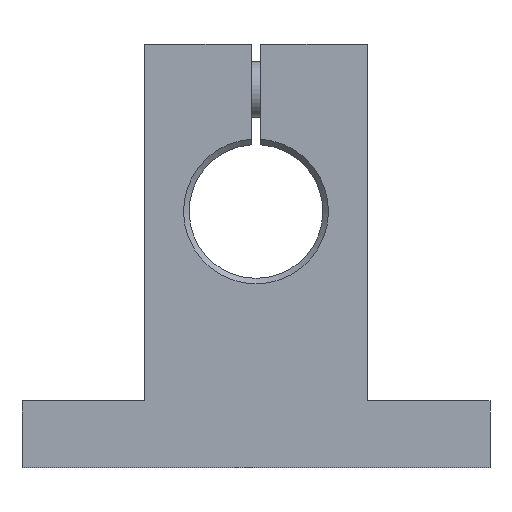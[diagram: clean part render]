
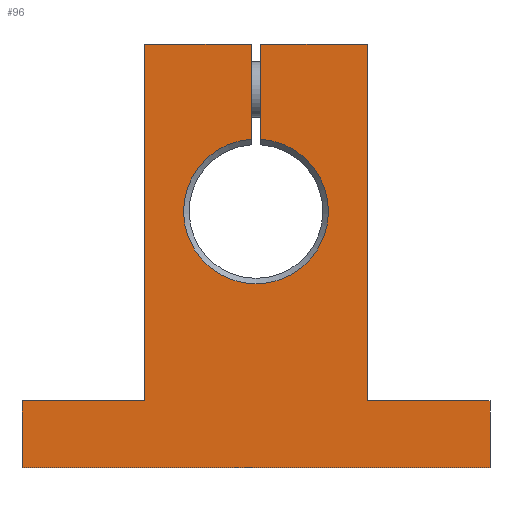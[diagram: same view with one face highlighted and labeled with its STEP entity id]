
A CAD part, front view. The second image highlights one B-rep face of the part: STEP entity #96.
In plain terms, the highlighted planar face has unit normal (0, -1, 0).
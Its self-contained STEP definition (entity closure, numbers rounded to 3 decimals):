
#96 = ADVANCED_FACE( '', ( #213 ), #214, .T. );
#213 = FACE_OUTER_BOUND( '', #357, .T. );
#214 = PLANE( '', #358 );
#357 = EDGE_LOOP( '', ( #567, #568, #569, #570, #571, #572, #573, #574, #575, #576, #577, #578 ) );
#358 = AXIS2_PLACEMENT_3D( '', #579, #580, #581 );
#567 = ORIENTED_EDGE( '', *, *, #769, .F. );
#568 = ORIENTED_EDGE( '', *, *, #787, .T. );
#569 = ORIENTED_EDGE( '', *, *, #815, .F. );
#570 = ORIENTED_EDGE( '', *, *, #807, .F. );
#571 = ORIENTED_EDGE( '', *, *, #816, .F. );
#572 = ORIENTED_EDGE( '', *, *, #817, .F. );
#573 = ORIENTED_EDGE( '', *, *, #803, .F. );
#574 = ORIENTED_EDGE( '', *, *, #757, .F. );
#575 = ORIENTED_EDGE( '', *, *, #790, .F. );
#576 = ORIENTED_EDGE( '', *, *, #818, .F. );
#577 = ORIENTED_EDGE( '', *, *, #819, .F. );
#578 = ORIENTED_EDGE( '', *, *, #820, .F. );
#579 = CARTESIAN_POINT( '', ( 0., -7., 0. ) );
#580 = DIRECTION( '', ( 0., -1., 0. ) );
#581 = DIRECTION( '', ( 1., 0., 0. ) );
#757 = EDGE_CURVE( '', #882, #883, #884, .T. );
#769 = EDGE_CURVE( '', #903, #905, #906, .T. );
#787 = EDGE_CURVE( '', #903, #929, #932, .F. );
#790 = EDGE_CURVE( '', #935, #882, #936, .T. );
#803 = EDGE_CURVE( '', #883, #956, #957, .T. );
#807 = EDGE_CURVE( '', #962, #963, #964, .T. );
#815 = EDGE_CURVE( '', #963, #929, #974, .T. );
#816 = EDGE_CURVE( '', #975, #962, #976, .T. );
#817 = EDGE_CURVE( '', #956, #975, #977, .T. );
#818 = EDGE_CURVE( '', #978, #935, #979, .T. );
#819 = EDGE_CURVE( '', #980, #978, #981, .T. );
#820 = EDGE_CURVE( '', #905, #980, #982, .T. );
#882 = VERTEX_POINT( '', #1063 );
#883 = VERTEX_POINT( '', #1064 );
#884 = LINE( '', #1065, #1066 );
#903 = VERTEX_POINT( '', #1093 );
#905 = VERTEX_POINT( '', #1098 );
#906 = LINE( '', #1099, #1100 );
#929 = VERTEX_POINT( '', #1127 );
#932 = CIRCLE( '', #1133, 6.5 );
#935 = VERTEX_POINT( '', #1136 );
#936 = LINE( '', #1137, #1138 );
#956 = VERTEX_POINT( '', #1167 );
#957 = LINE( '', #1168, #1169 );
#962 = VERTEX_POINT( '', #1176 );
#963 = VERTEX_POINT( '', #1177 );
#964 = LINE( '', #1178, #1179 );
#974 = LINE( '', #1194, #1195 );
#975 = VERTEX_POINT( '', #1196 );
#976 = LINE( '', #1197, #1198 );
#977 = LINE( '', #1199, #1200 );
#978 = VERTEX_POINT( '', #1201 );
#979 = LINE( '', #1202, #1203 );
#980 = VERTEX_POINT( '', #1204 );
#981 = LINE( '', #1205, #1206 );
#982 = LINE( '', #1207, #1208 );
#1063 = CARTESIAN_POINT( '', ( 21., -7., -23. ) );
#1064 = CARTESIAN_POINT( '', ( -21., -7., -23. ) );
#1065 = CARTESIAN_POINT( '', ( -21., -7., -23. ) );
#1066 = VECTOR( '', #1287, 1000. );
#1093 = CARTESIAN_POINT( '', ( 0.42, -7., 6.486 ) );
#1098 = CARTESIAN_POINT( '', ( 0.42, -7., 15. ) );
#1099 = CARTESIAN_POINT( '', ( 0.42, -7., 14.5 ) );
#1100 = VECTOR( '', #1299, 1000. );
#1127 = CARTESIAN_POINT( '', ( -0.42, -7., 6.486 ) );
#1133 = AXIS2_PLACEMENT_3D( '', #1319, #1320, #1321 );
#1136 = CARTESIAN_POINT( '', ( 21., -7., -17. ) );
#1137 = CARTESIAN_POINT( '', ( 21., -7., -23. ) );
#1138 = VECTOR( '', #1325, 1000. );
#1167 = CARTESIAN_POINT( '', ( -21., -7., -17. ) );
#1168 = CARTESIAN_POINT( '', ( -21., -7., -17. ) );
#1169 = VECTOR( '', #1338, 1000. );
#1176 = CARTESIAN_POINT( '', ( -10., -7., 15. ) );
#1177 = CARTESIAN_POINT( '', ( -0.42, -7., 15. ) );
#1178 = CARTESIAN_POINT( '', ( -0.42, -7., 15. ) );
#1179 = VECTOR( '', #1341, 1000. );
#1194 = CARTESIAN_POINT( '', ( -0.42, -7., 5.985 ) );
#1195 = VECTOR( '', #1347, 1000. );
#1196 = CARTESIAN_POINT( '', ( -10., -7., -17. ) );
#1197 = CARTESIAN_POINT( '', ( -10., -7., 14.5 ) );
#1198 = VECTOR( '', #1348, 1000. );
#1199 = CARTESIAN_POINT( '', ( -10., -7., -17. ) );
#1200 = VECTOR( '', #1349, 1000. );
#1201 = CARTESIAN_POINT( '', ( 10., -7., -17. ) );
#1202 = CARTESIAN_POINT( '', ( 21., -7., -17. ) );
#1203 = VECTOR( '', #1350, 1000. );
#1204 = CARTESIAN_POINT( '', ( 10., -7., 15. ) );
#1205 = CARTESIAN_POINT( '', ( 10., -7., -17. ) );
#1206 = VECTOR( '', #1351, 1000. );
#1207 = CARTESIAN_POINT( '', ( 10., -7., 15. ) );
#1208 = VECTOR( '', #1352, 1000. );
#1287 = DIRECTION( '', ( -1., 0., 0. ) );
#1299 = DIRECTION( '', ( 0., 0., 1. ) );
#1319 = CARTESIAN_POINT( '', ( 0., -7., 0. ) );
#1320 = DIRECTION( '', ( 0., -1., 0. ) );
#1321 = DIRECTION( '', ( 0., 0., -1. ) );
#1325 = DIRECTION( '', ( 0., 0., -1. ) );
#1338 = DIRECTION( '', ( 0., 0., 1. ) );
#1341 = DIRECTION( '', ( 1., 0., 0. ) );
#1347 = DIRECTION( '', ( 0., 0., -1. ) );
#1348 = DIRECTION( '', ( 0., 0., 1. ) );
#1349 = DIRECTION( '', ( 1., 0., 0. ) );
#1350 = DIRECTION( '', ( 1., 0., 0. ) );
#1351 = DIRECTION( '', ( 0., 0., -1. ) );
#1352 = DIRECTION( '', ( 1., 0., 0. ) );
